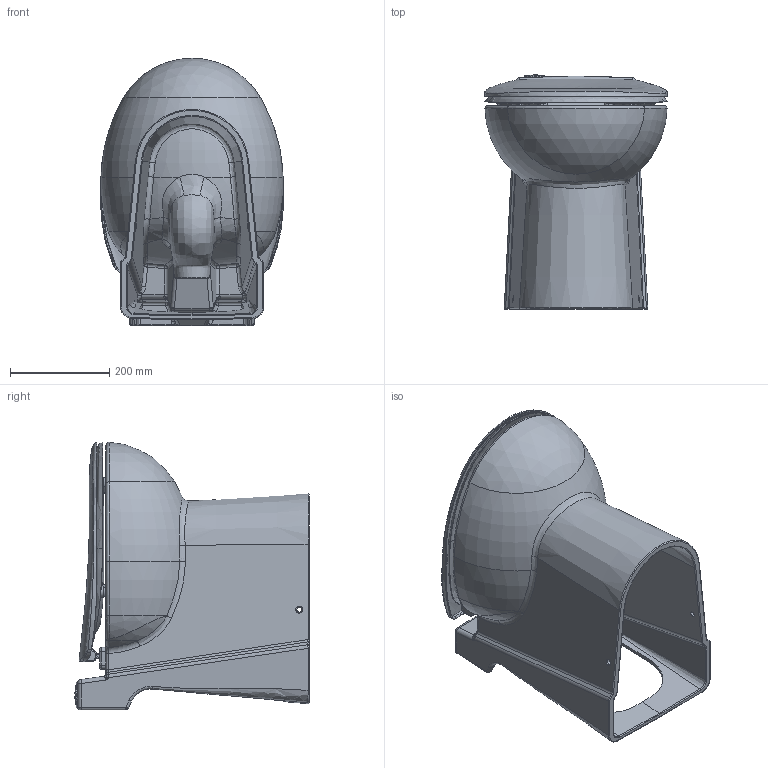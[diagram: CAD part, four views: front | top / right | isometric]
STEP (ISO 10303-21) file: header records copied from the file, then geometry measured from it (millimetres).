
FILE_DESCRIPTION (( 'STEP AP214' ), '1' );
FILE_NAME ('C4.STEP', '2018-05-30T12:05:04', ( 'VHUMBERT' ), ( '' ), 'SwSTEP 2.0', 'SolidWorks 2015', '' );
FILE_SCHEMA (( 'AUTOMOTIVE_DESIGN' ));
Length unit declared in the file: millimetre
Products named in the file (1): C4
Bounding box: 368.3 x 472.67 x 540.02 mm (x, y, z)
Volume: 9551340.9 mm3; surface area: 1926483.3 mm2
Topology: 1 solids, 2 shells, 883 faces, 2195 edges, 1280 vertices
Faces by surface type: bspline 384, cylinder 231, plane 122, torus 91, sphere 33, cone 22
Full cylindrical faces by diameter (mm): 3.5 x26, 6 x6, 9 x1, 10 x2, 11 x4, 15 x2, 19 x1
Entity records: 180529 total; most frequent: CARTESIAN_POINT 163321, ORIENTED_EDGE 4116, DIRECTION 2794, EDGE_CURVE 2058, VERTEX_POINT 1231, AXIS2_PLACEMENT_3D 1169, EDGE_LOOP 1027, FACE_OUTER_BOUND 934
